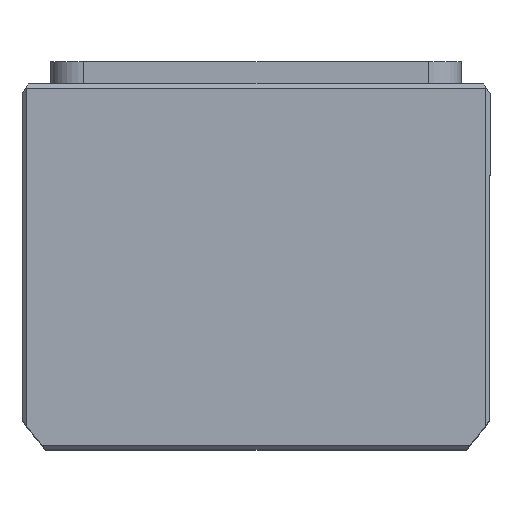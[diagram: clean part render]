
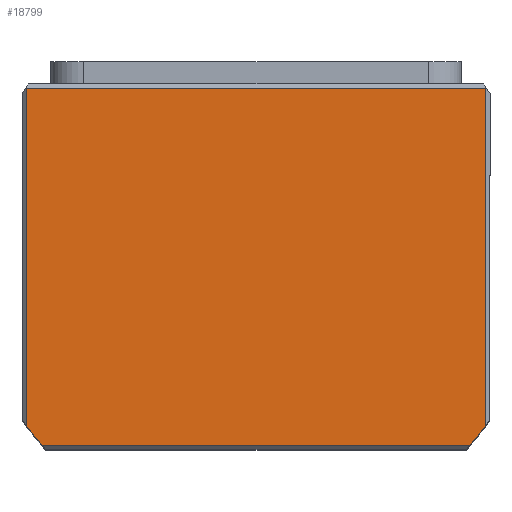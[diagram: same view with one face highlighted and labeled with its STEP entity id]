
A CAD part, top view. The second image highlights one B-rep face of the part: STEP entity #18799.
In plain terms, the highlighted planar face has unit normal (0, 0, 1) as drawn and (0, 0, -1) by its records, which use the part's own axes.
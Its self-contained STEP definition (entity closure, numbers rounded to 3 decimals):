
#46 = ORIENTED_EDGE ( 'NONE', *, *, #1290, .T. ) ;
#398 = ORIENTED_EDGE ( 'NONE', *, *, #2918, .T. ) ;
#979 = VERTEX_POINT ( 'NONE', #9574 ) ;
#1036 = DIRECTION ( 'NONE',  ( 0., 0., 1. ) ) ;
#1290 = EDGE_CURVE ( 'NONE', #18449, #15561, #21473, .T. ) ;
#1465 = CARTESIAN_POINT ( 'NONE',  ( 56., -43.5, 0. ) ) ;
#1664 = DIRECTION ( 'NONE',  ( 1., 0., 0. ) ) ;
#1804 = DIRECTION ( 'NONE',  ( 0., 0., 1. ) ) ;
#2918 = EDGE_CURVE ( 'NONE', #15561, #979, #22580, .T. ) ;
#3809 = CARTESIAN_POINT ( 'NONE',  ( 52.098, 43.5, 0. ) ) ;
#4335 = VECTOR ( 'NONE', #11859, 1000. ) ;
#4807 = AXIS2_PLACEMENT_3D ( 'NONE', #23584, #12780, #1664 ) ;
#4832 = VERTEX_POINT ( 'NONE', #20109 ) ;
#5665 = DIRECTION ( 'NONE',  ( 0., 1., 0. ) ) ;
#6520 = CARTESIAN_POINT ( 'NONE',  ( 56., 0., 0. ) ) ;
#6581 = DIRECTION ( 'NONE',  ( 0., -1., 0. ) ) ;
#7134 = ORIENTED_EDGE ( 'NONE', *, *, #7669, .F. ) ;
#7224 = EDGE_CURVE ( 'NONE', #4832, #20694, #12997, .T. ) ;
#7542 = VECTOR ( 'NONE', #6581, 1000. ) ;
#7669 = EDGE_CURVE ( 'NONE', #18449, #20694, #21730, .T. ) ;
#7731 = FACE_OUTER_BOUND ( 'NONE', #20214, .T. ) ;
#8150 = VECTOR ( 'NONE', #11502, 1000. ) ;
#8579 = ORIENTED_EDGE ( 'NONE', *, *, #7224, .T. ) ;
#9574 = CARTESIAN_POINT ( 'NONE',  ( -56., -43.5, 0. ) ) ;
#9661 = CARTESIAN_POINT ( 'NONE',  ( 0., 43.5, 0. ) ) ;
#10863 = ORIENTED_EDGE ( 'NONE', *, *, #19175, .T. ) ;
#11502 = DIRECTION ( 'NONE',  ( 1., 0., 0. ) ) ;
#11733 = ORIENTED_EDGE ( 'NONE', *, *, #17818, .F. ) ;
#11859 = DIRECTION ( 'NONE',  ( -1., 0., 0. ) ) ;
#11975 = CARTESIAN_POINT ( 'NONE',  ( -56., 38.661, 0. ) ) ;
#12165 = CARTESIAN_POINT ( 'NONE',  ( 0., -2.5, 0. ) ) ;
#12231 = CARTESIAN_POINT ( 'NONE',  ( 0., -43.5, 0. ) ) ;
#12780 = DIRECTION ( 'NONE',  ( 0., 0., 1. ) ) ;
#12920 = CARTESIAN_POINT ( 'NONE',  ( 0., -2.5, 0. ) ) ;
#12997 = LINE ( 'NONE', #9661, #8150 ) ;
#13888 = AXIS2_PLACEMENT_3D ( 'NONE', #12165, #1036, #14019 ) ;
#14019 = DIRECTION ( 'NONE',  ( 1., 0., 0. ) ) ;
#14044 = LINE ( 'NONE', #16594, #23587 ) ;
#14775 = DIRECTION ( 'NONE',  ( 1., 0., 0. ) ) ;
#15561 = VERTEX_POINT ( 'NONE', #1465 ) ;
#15782 = CIRCLE ( 'NONE', #16043, 69.5 ) ;
#16043 = AXIS2_PLACEMENT_3D ( 'NONE', #12920, #1804, #14775 ) ;
#16594 = CARTESIAN_POINT ( 'NONE',  ( -56., 0., 0. ) ) ;
#17818 = EDGE_CURVE ( 'NONE', #4832, #21036, #15782, .T. ) ;
#18449 = VERTEX_POINT ( 'NONE', #21038 ) ;
#18799 = ADVANCED_FACE ( 'NONE', ( #7731 ), #19926, .F. ) ;
#19175 = EDGE_CURVE ( 'NONE', #979, #21036, #14044, .T. ) ;
#19926 = PLANE ( 'NONE',  #4807 ) ;
#20109 = CARTESIAN_POINT ( 'NONE',  ( -52.098, 43.5, 0. ) ) ;
#20214 = EDGE_LOOP ( 'NONE', ( #7134, #46, #398, #10863, #11733, #8579 ) ) ;
#20694 = VERTEX_POINT ( 'NONE', #3809 ) ;
#21036 = VERTEX_POINT ( 'NONE', #11975 ) ;
#21038 = CARTESIAN_POINT ( 'NONE',  ( 56., 38.661, 0. ) ) ;
#21473 = LINE ( 'NONE', #6520, #7542 ) ;
#21730 = CIRCLE ( 'NONE', #13888, 69.5 ) ;
#22580 = LINE ( 'NONE', #12231, #4335 ) ;
#23584 = CARTESIAN_POINT ( 'NONE',  ( 0., 0., 0. ) ) ;
#23587 = VECTOR ( 'NONE', #5665, 1000. ) ;
